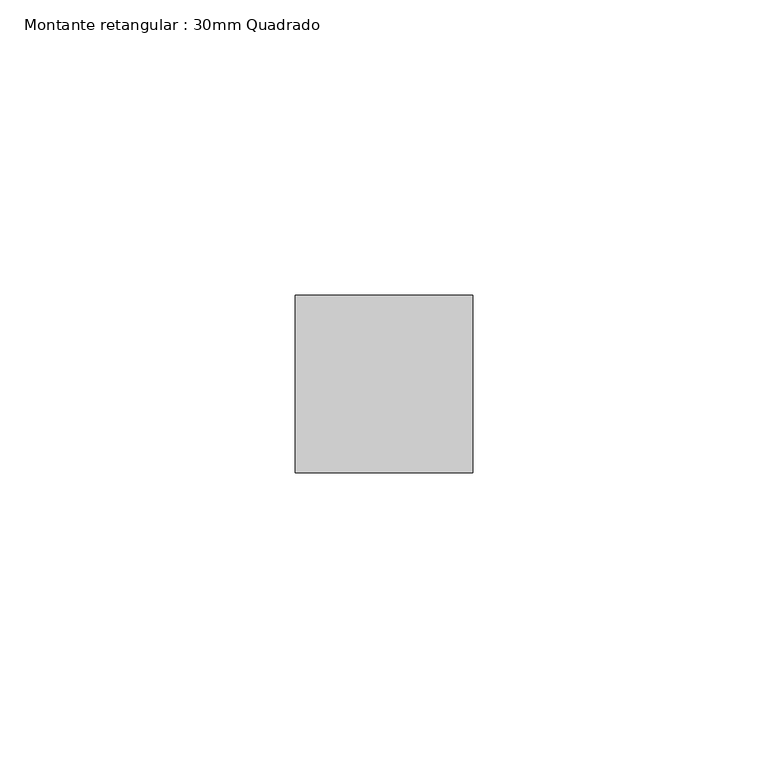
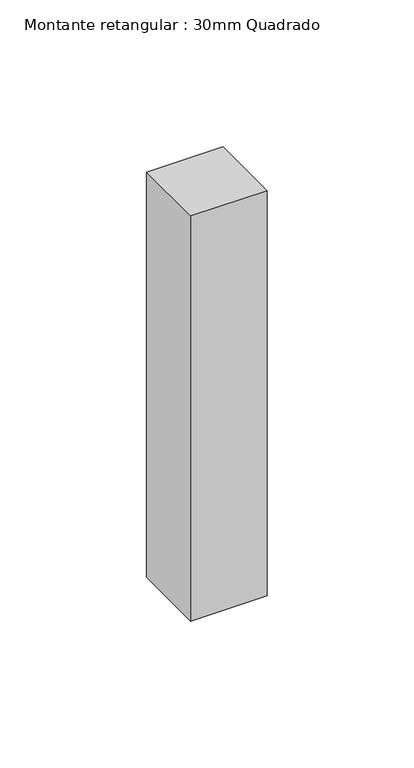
"""IFC4 building model written with IfcOpenShell, lengths in millimetres: member geometry, Montante retangular : 30mm Quadrado."""

from ifc_helpers import new_model, si_unit, frame, origin, place, context, project, spatial, polyline, outline, extrude, source, transform, mapped, element, save


def montante_retangular_30mm_quadrado_ebddef8f(model_context):
    return source(origin(), model_context, "Body", "SweptSolid", [
        extrude(outline(polyline([(15.0, 15.0), (15.0, -15.0), (-15.0, -15.0), (-15.0, 15.0), (15.0, 15.0)])), frame((0.0, 0.0, -168.3905748), z_axis=(0.0, 0.0, 1.0), x_axis=(1.0, 0.0, 0.0)), (0.0, 0.0, 1.0), 168.3905748),
    ])


if __name__ == "__main__":
    model = new_model("IFC4")
    model_context = context("Model", 3, world=origin())
    ifc_project = project(units=[si_unit("LENGTHUNIT", "METRE", prefix="MILLI")], contexts=[model_context])
    site = spatial("IfcSite", under=ifc_project)
    building = spatial("IfcBuilding", under=site)
    placement = place(None, origin())
    montante_retangular_30mm_quadrado_shape = montante_retangular_30mm_quadrado_ebddef8f(model_context)
    element("IfcMember", 1, ObjectType="Montante retangular : 30mm Quadrado", at=placement, inside=building, context=model_context, shape_type="MappedRepresentation", body=[
        mapped(montante_retangular_30mm_quadrado_shape, transform((0.0, 0.0, 0.0), x_axis=(1.0, 0.0, 0.0), y_axis=(0.0, 1.0, 0.0), z_axis=(0.0, 0.0, 1.0))),
    ])
    save(model, "model.ifc")
